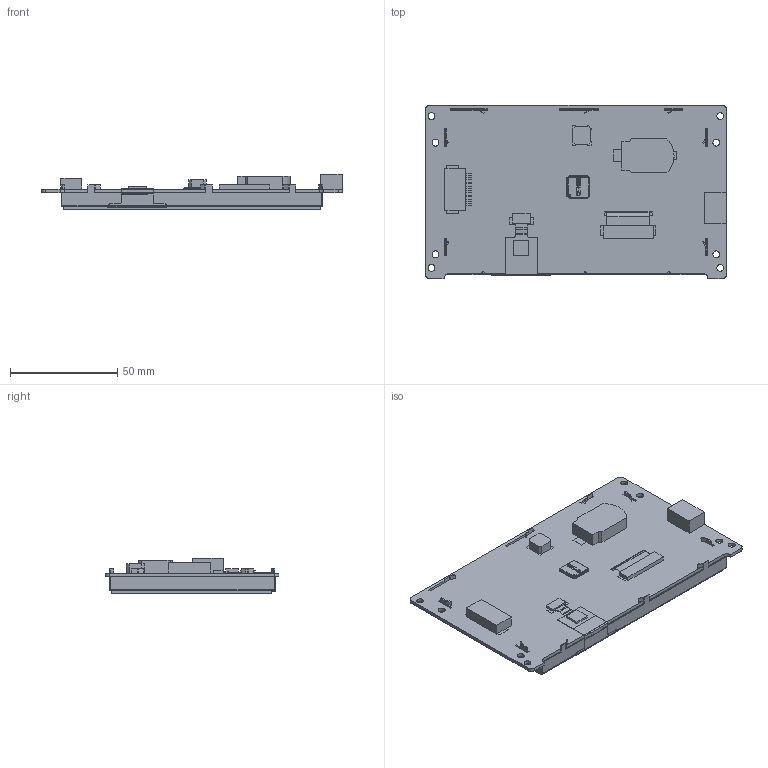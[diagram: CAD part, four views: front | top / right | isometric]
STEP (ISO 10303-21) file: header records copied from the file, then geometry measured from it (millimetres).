
FILE_DESCRIPTION(/* description */ (''),/* implementation_level */ '2;1');
FILE_NAME(/* name */ '',/* time_stamp */ '2023-08-28T14:17:47+08:00',/* author */ (''),/* organization */ (''),/* preprocessor_version */ 'ST-DEVELOPER v11',/* originating_system */ 'SIEMENS PLM Software NX 7.5',/* authorisation */ '');
FILE_SCHEMA (('AP203_CONFIGURATION_CONTROLLED_3D_DESIGN_OF_MECHANICAL_PARTS_AND_ASSEMBLIES_MIM_LF'));
Length unit declared in the file: millimetre
Products named in the file (1): 3D-SDWb050YY97AC
Bounding box: 140 x 80.9 x 16.6 mm (x, y, z)
Volume: 37539.2 mm3; surface area: 57245.2 mm2
Topology: 18 solids, 18 shells, 1448 faces, 4159 edges, 2761 vertices
Faces by surface type: plane 1242, cylinder 199, bspline 7
Full cylindrical faces by diameter (mm): 3.2 x8
Entity records: 49222 total; most frequent: CARTESIAN_POINT 8763, ORIENTED_EDGE 8302, DIRECTION 7356, EDGE_CURVE 4151, LINE 3724, VECTOR 3724, VERTEX_POINT 2761, AXIS2_PLACEMENT_3D 1816
